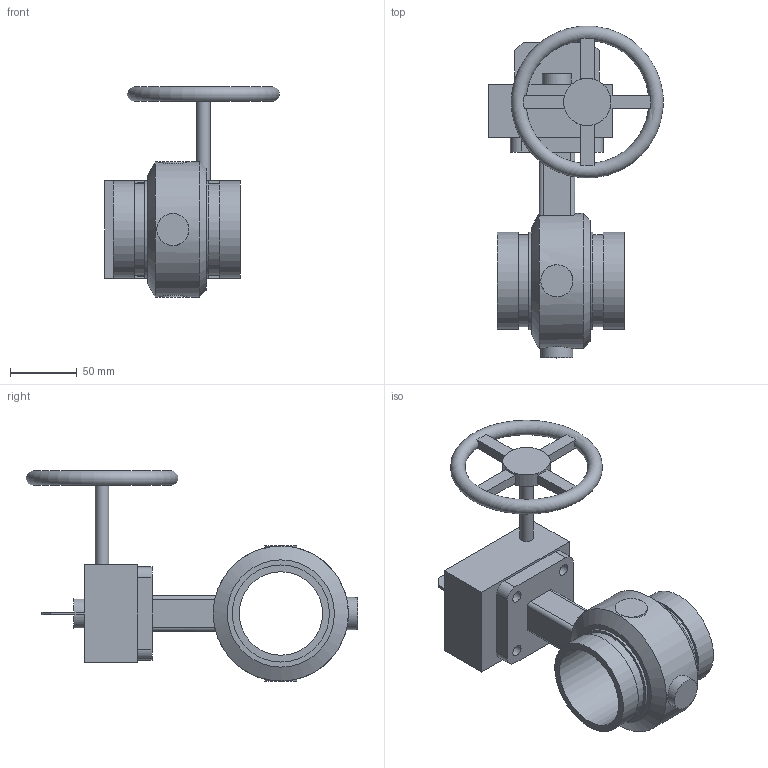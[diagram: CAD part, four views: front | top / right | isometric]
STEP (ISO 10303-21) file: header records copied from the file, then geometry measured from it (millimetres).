
FILE_DESCRIPTION(/* description */ ('VIC FP VALVE BUTTERFLY HP SERIES 766 (OGS)'),/* implementation_level */ '2;1');
FILE_NAME(/* name */ 'C:\Files for Export\766\Victaulic_EU_FP_Vlv Btfl HP_Series 766 (OGS)\Victaulic_EU_FP_Vlv Btfl HP_Series 766 (OGS)_2.5 (65).stp',/* time_stamp */ '2024-06-27T12:46:14+02:00',/* author */ ('cps_temp'),/* organization */ ('Victaulic'),/* preprocessor_version */ 'ST-DEVELOPER v18.1',/* originating_system */ 'Autodesk Inventor 2020',/* authorisation */ '');
FILE_SCHEMA (('AUTOMOTIVE_DESIGN { 1 0 10303 214 3 1 1 }'));
Length unit declared in the file: inch
Products named in the file (1): 766-02.5
Bounding box: 131.32 x 249.39 x 157.99 mm (x, y, z)
Volume: 673374.6 mm3; surface area: 118455.8 mm2
Topology: 1 solids, 2 shells, 93 faces, 239 edges, 162 vertices
Faces by surface type: plane 59, cylinder 31, cone 2, torus 1
Full cylindrical faces by diameter (mm): 8.128 x1, 8.636 x4, 10.16 x1, 24.13 x1, 35.56 x1, 55.118 x1, 62.713 x1, 69.088 x2, 73.025 x4, 101.6 x1
Entity records: 3299 total; most frequent: CARTESIAN_POINT 780, DIRECTION 499, ORIENTED_EDGE 478, EDGE_CURVE 239, AXIS2_PLACEMENT_3D 193, VERTEX_POINT 162, EDGE_LOOP 117, LINE 113
